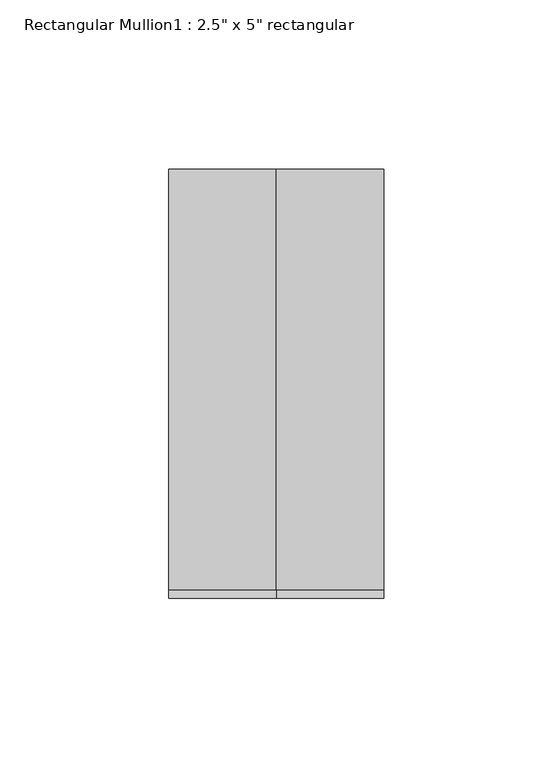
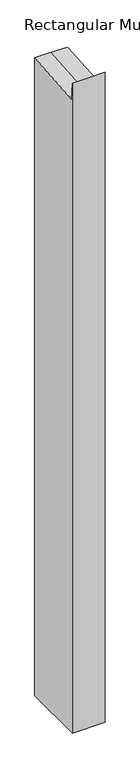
"""IFC4 building model written with IfcOpenShell, lengths in millimetres: member geometry."""

from ifc_helpers import new_model, si_unit, origin, place, context, project, spatial, faceted_brep, source, transform, mapped, element, save


def member_652a6926(model_context):
    return source(origin(), model_context, "Body", "Brep", [
        faceted_brep([(31.75, 63.5, -1302.7683735), (31.75, -63.5, -1302.7683735), (-31.75, -63.5, -1302.7683735), (-31.75, 63.5, -1302.7683735), (-31.75, 63.5, 4.512614), (0.0, 63.5, 4.512614), (31.75, 63.5, 4.512614), (-31.75, -63.5, 29.4551734), (-31.75, -61.0425175, -4.5008422), (31.75, -63.5, 29.4551734), (0.0, -63.5, 29.4551734), (31.75, -61.0425175, -4.5008422), (0.0, -61.0425175, -4.5008422)], [[[0, 1, 2, 3]], [[4, 5, 6, 0, 3]], [[7, 8, 4, 3, 2]], [[9, 10, 7, 2, 1]], [[6, 11, 9, 1, 0]], [[6, 5, 12, 11]], [[5, 4, 8, 12]], [[8, 7, 10, 12]], [[10, 9, 11, 12]]]),
    ])


if __name__ == "__main__":
    model = new_model("IFC4")
    model_context = context("Model", 3, world=origin())
    ifc_project = project(units=[si_unit("LENGTHUNIT", "METRE", prefix="MILLI")], contexts=[model_context])
    site = spatial("IfcSite", under=ifc_project)
    building = spatial("IfcBuilding", under=site)
    placement = place(None, origin())
    member_shape = member_652a6926(model_context)
    element("IfcMember", 1, ObjectType="Rectangular Mullion1 : 2.5\" x 5\" rectangular", at=placement, inside=building, context=model_context, shape_type="MappedRepresentation", body=[
        mapped(member_shape, transform((0.0, 0.0, 0.0), x_axis=(1.0, 0.0, 0.0), y_axis=(0.0, 1.0, 0.0), z_axis=(0.0, 0.0, 1.0))),
    ])
    save(model, "model.ifc")
